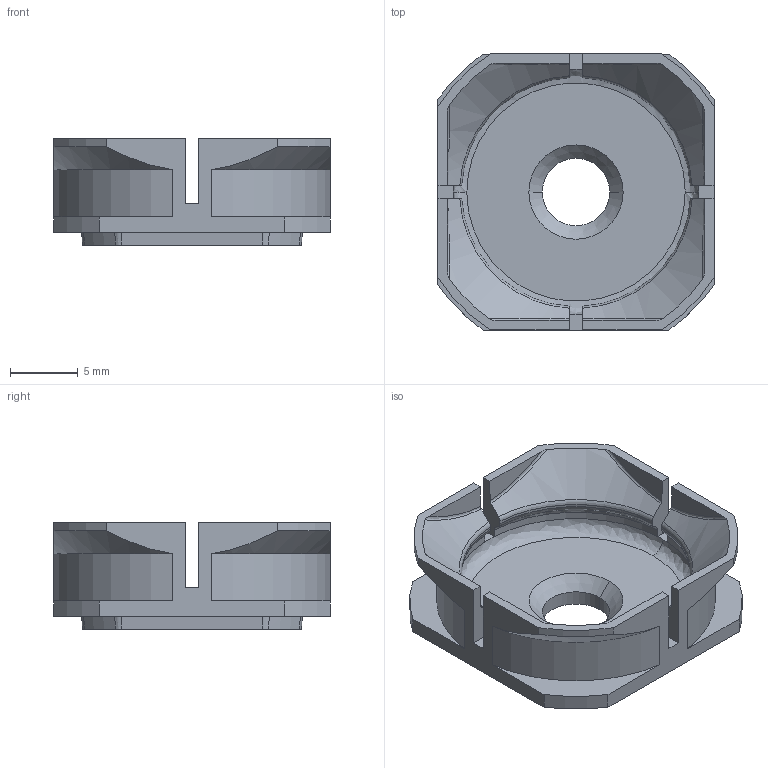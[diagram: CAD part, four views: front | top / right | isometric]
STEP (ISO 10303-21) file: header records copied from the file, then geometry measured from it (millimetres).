
FILE_DESCRIPTION (( 'STEP AP203' ), '1' );
FILE_NAME ('11.05.819 Click Button Panel Connector Black PA Female ø25mm.STEP', '2024-12-18T13:07:20', ( '' ), ( '' ), 'SwSTEP 2.0', 'SolidWorks 2024', '' );
FILE_SCHEMA (( 'CONFIG_CONTROL_DESIGN' ));
Length unit declared in the file: millimetre
Products named in the file (1): 11.05.819 Click Button Panel Connector Black PA Female ø25mm
Bounding box: 20.4 x 20.4 x 7.86 mm (x, y, z)
Surface area: 1743.8 mm2 (no closed solid volume)
Topology: 0 solids, 1 shells, 137 faces, 389 edges, 255 vertices
Faces by surface type: plane 51, bspline 36, cylinder 28, cone 18, torus 4
Entity records: 5483 total; most frequent: CARTESIAN_POINT 2183, ORIENTED_EDGE 768, DIRECTION 548, EDGE_CURVE 386, VERTEX_POINT 255, AXIS2_PLACEMENT_3D 196, VECTOR 156, LINE 156
